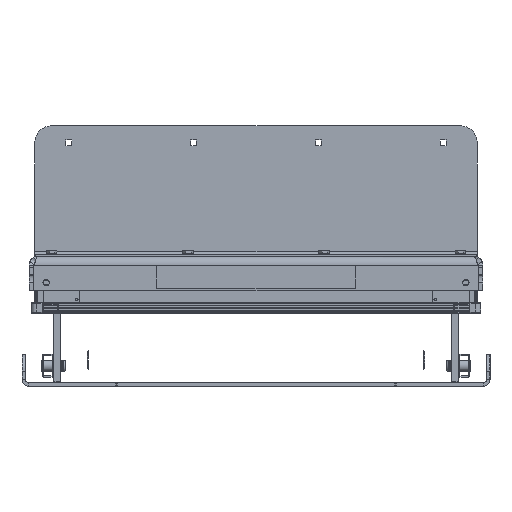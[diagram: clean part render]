
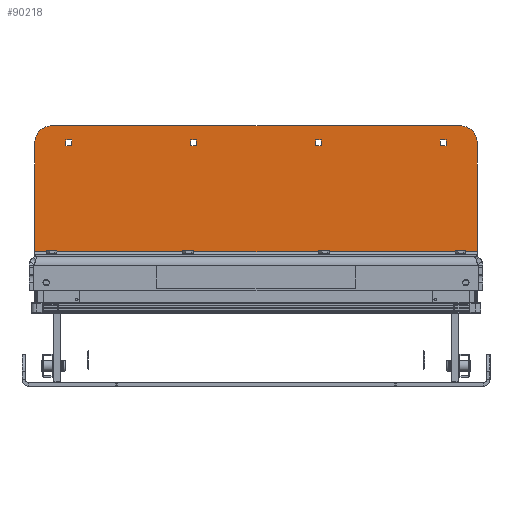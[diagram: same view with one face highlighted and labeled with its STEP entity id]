
A CAD part, left-side view. The second image highlights one B-rep face of the part: STEP entity #90218.
In plain terms, the highlighted planar face has unit normal (-1, 0, 0).
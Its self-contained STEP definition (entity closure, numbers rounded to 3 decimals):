
#8144=LINE('',#160949,#15858);
#8166=LINE('',#160997,#15880);
#8167=LINE('',#161001,#15881);
#8170=LINE('',#161006,#15884);
#8172=LINE('',#161010,#15886);
#8174=LINE('',#161013,#15888);
#8175=LINE('',#161017,#15889);
#8178=LINE('',#161022,#15892);
#8180=LINE('',#161026,#15894);
#8182=LINE('',#161029,#15896);
#8183=LINE('',#161033,#15897);
#8186=LINE('',#161038,#15900);
#8188=LINE('',#161042,#15902);
#8190=LINE('',#161045,#15904);
#8191=LINE('',#161049,#15905);
#8194=LINE('',#161054,#15908);
#8196=LINE('',#161058,#15910);
#8198=LINE('',#161061,#15912);
#8202=LINE('',#161075,#15916);
#8203=LINE('',#161077,#15917);
#15858=VECTOR('',#115030,72.);
#15880=VECTOR('',#115062,19.2);
#15881=VECTOR('',#115065,1.02);
#15884=VECTOR('',#115070,1.02);
#15886=VECTOR('',#115074,1.02);
#15888=VECTOR('',#115078,1.02);
#15889=VECTOR('',#115081,1.02);
#15892=VECTOR('',#115086,1.02);
#15894=VECTOR('',#115090,1.02);
#15896=VECTOR('',#115094,1.02);
#15897=VECTOR('',#115097,1.02);
#15900=VECTOR('',#115102,1.02);
#15902=VECTOR('',#115106,1.02);
#15904=VECTOR('',#115110,1.02);
#15905=VECTOR('',#115113,1.02);
#15908=VECTOR('',#115118,1.02);
#15910=VECTOR('',#115122,1.02);
#15912=VECTOR('',#115126,1.02);
#15916=VECTOR('',#115148,78.);
#15917=VECTOR('',#115151,19.2);
#19686=PLANE('',#96612);
#20637=FACE_BOUND('',#29575,.T.);
#20638=FACE_BOUND('',#29576,.T.);
#20639=FACE_BOUND('',#29577,.T.);
#20640=FACE_BOUND('',#29578,.T.);
#24476=FACE_OUTER_BOUND('',#29574,.T.);
#29574=EDGE_LOOP('',(#74281,#74282,#74283,#74284,#74285,#74286));
#29575=EDGE_LOOP('',(#74287,#74288,#74289,#74290));
#29576=EDGE_LOOP('',(#74291,#74292,#74293,#74294));
#29577=EDGE_LOOP('',(#74295,#74296,#74297,#74298));
#29578=EDGE_LOOP('',(#74299,#74300,#74301,#74302));
#33275=CIRCLE('',#96578,3.);
#33278=CIRCLE('',#96584,3.);
#40674=VERTEX_POINT('',#160936);
#40675=VERTEX_POINT('',#160937);
#40679=VERTEX_POINT('',#160947);
#40699=VERTEX_POINT('',#160991);
#40700=VERTEX_POINT('',#160995);
#40701=VERTEX_POINT('',#160999);
#40702=VERTEX_POINT('',#161000);
#40703=VERTEX_POINT('',#161005);
#40704=VERTEX_POINT('',#161009);
#40705=VERTEX_POINT('',#161015);
#40706=VERTEX_POINT('',#161016);
#40707=VERTEX_POINT('',#161021);
#40708=VERTEX_POINT('',#161025);
#40709=VERTEX_POINT('',#161031);
#40710=VERTEX_POINT('',#161032);
#40711=VERTEX_POINT('',#161037);
#40712=VERTEX_POINT('',#161041);
#40713=VERTEX_POINT('',#161047);
#40714=VERTEX_POINT('',#161048);
#40715=VERTEX_POINT('',#161053);
#40716=VERTEX_POINT('',#161057);
#40717=VERTEX_POINT('',#161071);
#52226=EDGE_CURVE('',#40674,#40675,#33275,.T.);
#52232=EDGE_CURVE('',#40679,#40674,#8144,.T.);
#52253=EDGE_CURVE('',#40699,#40679,#33278,.T.);
#52256=EDGE_CURVE('',#40700,#40699,#8166,.T.);
#52257=EDGE_CURVE('',#40701,#40702,#8167,.T.);
#52260=EDGE_CURVE('',#40702,#40703,#8170,.T.);
#52262=EDGE_CURVE('',#40703,#40704,#8172,.T.);
#52264=EDGE_CURVE('',#40704,#40701,#8174,.T.);
#52265=EDGE_CURVE('',#40705,#40706,#8175,.T.);
#52268=EDGE_CURVE('',#40706,#40707,#8178,.T.);
#52270=EDGE_CURVE('',#40707,#40708,#8180,.T.);
#52272=EDGE_CURVE('',#40708,#40705,#8182,.T.);
#52273=EDGE_CURVE('',#40709,#40710,#8183,.T.);
#52276=EDGE_CURVE('',#40710,#40711,#8186,.T.);
#52278=EDGE_CURVE('',#40711,#40712,#8188,.T.);
#52280=EDGE_CURVE('',#40712,#40709,#8190,.T.);
#52281=EDGE_CURVE('',#40713,#40714,#8191,.T.);
#52284=EDGE_CURVE('',#40714,#40715,#8194,.T.);
#52286=EDGE_CURVE('',#40715,#40716,#8196,.T.);
#52288=EDGE_CURVE('',#40716,#40713,#8198,.T.);
#52296=EDGE_CURVE('',#40700,#40717,#8202,.T.);
#52297=EDGE_CURVE('',#40675,#40717,#8203,.T.);
#74281=ORIENTED_EDGE('',*,*,#52226,.F.);
#74282=ORIENTED_EDGE('',*,*,#52232,.F.);
#74283=ORIENTED_EDGE('',*,*,#52253,.F.);
#74284=ORIENTED_EDGE('',*,*,#52256,.F.);
#74285=ORIENTED_EDGE('',*,*,#52296,.T.);
#74286=ORIENTED_EDGE('',*,*,#52297,.F.);
#74287=ORIENTED_EDGE('',*,*,#52257,.T.);
#74288=ORIENTED_EDGE('',*,*,#52260,.T.);
#74289=ORIENTED_EDGE('',*,*,#52262,.T.);
#74290=ORIENTED_EDGE('',*,*,#52264,.T.);
#74291=ORIENTED_EDGE('',*,*,#52265,.T.);
#74292=ORIENTED_EDGE('',*,*,#52268,.T.);
#74293=ORIENTED_EDGE('',*,*,#52270,.T.);
#74294=ORIENTED_EDGE('',*,*,#52272,.T.);
#74295=ORIENTED_EDGE('',*,*,#52273,.T.);
#74296=ORIENTED_EDGE('',*,*,#52276,.T.);
#74297=ORIENTED_EDGE('',*,*,#52278,.T.);
#74298=ORIENTED_EDGE('',*,*,#52280,.T.);
#74299=ORIENTED_EDGE('',*,*,#52281,.T.);
#74300=ORIENTED_EDGE('',*,*,#52284,.T.);
#74301=ORIENTED_EDGE('',*,*,#52286,.T.);
#74302=ORIENTED_EDGE('',*,*,#52288,.T.);
#90218=ADVANCED_FACE('',(#24476,#20637,#20638,#20639,#20640),#19686,.T.);
#96578=AXIS2_PLACEMENT_3D('',#160938,#115020,#115021);
#96584=AXIS2_PLACEMENT_3D('',#160992,#115056,#115057);
#96612=AXIS2_PLACEMENT_3D('',#161078,#115152,#115153);
#115020=DIRECTION('center_axis',(1.,0.,0.));
#115021=DIRECTION('ref_axis',(0.,-0.707,
0.707));
#115030=DIRECTION('',(0.,-1.,0.));
#115056=DIRECTION('center_axis',(1.,0.,0.));
#115057=DIRECTION('ref_axis',(0.,0.707,0.707));
#115062=DIRECTION('',(0.,0.,1.));
#115065=DIRECTION('',(0.,0.,-1.));
#115070=DIRECTION('',(0.,1.,0.));
#115074=DIRECTION('',(0.,0.,1.));
#115078=DIRECTION('',(0.,-1.,0.));
#115081=DIRECTION('',(0.,0.,-1.));
#115086=DIRECTION('',(0.,1.,0.));
#115090=DIRECTION('',(0.,0.,1.));
#115094=DIRECTION('',(0.,-1.,0.));
#115097=DIRECTION('',(0.,0.,-1.));
#115102=DIRECTION('',(0.,1.,0.));
#115106=DIRECTION('',(0.,0.,1.));
#115110=DIRECTION('',(0.,-1.,0.));
#115113=DIRECTION('',(0.,0.,-1.));
#115118=DIRECTION('',(0.,1.,0.));
#115122=DIRECTION('',(0.,0.,1.));
#115126=DIRECTION('',(0.,-1.,0.));
#115148=DIRECTION('',(0.,-1.,0.));
#115151=DIRECTION('',(0.,0.,-1.));
#115152=DIRECTION('center_axis',(-1.,0.,0.));
#115153=DIRECTION('ref_axis',(0.,-1.,0.));
#160936=CARTESIAN_POINT('',(-32.601,-36.,45.9));
#160937=CARTESIAN_POINT('',(-32.601,-39.,42.9));
#160938=CARTESIAN_POINT('Origin',(-32.601,-36.,42.9));
#160947=CARTESIAN_POINT('',(-32.601,36.,45.9));
#160949=CARTESIAN_POINT('',(-32.601,-39.,45.9));
#160991=CARTESIAN_POINT('',(-32.601,39.,42.9));
#160992=CARTESIAN_POINT('Origin',(-32.601,36.,42.9));
#160995=CARTESIAN_POINT('',(-32.601,39.,23.7));
#160997=CARTESIAN_POINT('',(-32.601,39.,45.9));
#160999=CARTESIAN_POINT('',(-32.601,32.49,43.4));
#161000=CARTESIAN_POINT('',(-32.601,32.49,42.38));
#161001=CARTESIAN_POINT('',(-32.601,32.49,38.9));
#161005=CARTESIAN_POINT('',(-32.601,33.51,42.38));
#161006=CARTESIAN_POINT('',(-32.601,16.245,42.38));
#161009=CARTESIAN_POINT('',(-32.601,33.51,43.4));
#161010=CARTESIAN_POINT('',(-32.601,33.51,38.39));
#161013=CARTESIAN_POINT('',(-32.601,16.755,43.4));
#161015=CARTESIAN_POINT('',(-32.601,10.49,43.4));
#161016=CARTESIAN_POINT('',(-32.601,10.49,42.38));
#161017=CARTESIAN_POINT('',(-32.601,10.49,38.9));
#161021=CARTESIAN_POINT('',(-32.601,11.51,42.38));
#161022=CARTESIAN_POINT('',(-32.601,5.245,42.38));
#161025=CARTESIAN_POINT('',(-32.601,11.51,43.4));
#161026=CARTESIAN_POINT('',(-32.601,11.51,38.39));
#161029=CARTESIAN_POINT('',(-32.601,5.755,43.4));
#161031=CARTESIAN_POINT('',(-32.601,-11.51,43.4));
#161032=CARTESIAN_POINT('',(-32.601,-11.51,42.38));
#161033=CARTESIAN_POINT('',(-32.601,-11.51,38.9));
#161037=CARTESIAN_POINT('',(-32.601,-10.49,42.38));
#161038=CARTESIAN_POINT('',(-32.601,-5.755,42.38));
#161041=CARTESIAN_POINT('',(-32.601,-10.49,43.4));
#161042=CARTESIAN_POINT('',(-32.601,-10.49,38.39));
#161045=CARTESIAN_POINT('',(-32.601,-5.245,43.4));
#161047=CARTESIAN_POINT('',(-32.601,-33.51,43.4));
#161048=CARTESIAN_POINT('',(-32.601,-33.51,42.38));
#161049=CARTESIAN_POINT('',(-32.601,-33.51,38.9));
#161053=CARTESIAN_POINT('',(-32.601,-32.49,42.38));
#161054=CARTESIAN_POINT('',(-32.601,-16.755,42.38));
#161057=CARTESIAN_POINT('',(-32.601,-32.49,43.4));
#161058=CARTESIAN_POINT('',(-32.601,-32.49,38.39));
#161061=CARTESIAN_POINT('',(-32.601,-16.245,43.4));
#161071=CARTESIAN_POINT('',(-32.601,-39.,23.7));
#161075=CARTESIAN_POINT('',(-32.601,-19.5,23.7));
#161077=CARTESIAN_POINT('',(-32.601,-39.,22.9));
#161078=CARTESIAN_POINT('Origin',(-32.601,0.,
34.4));
